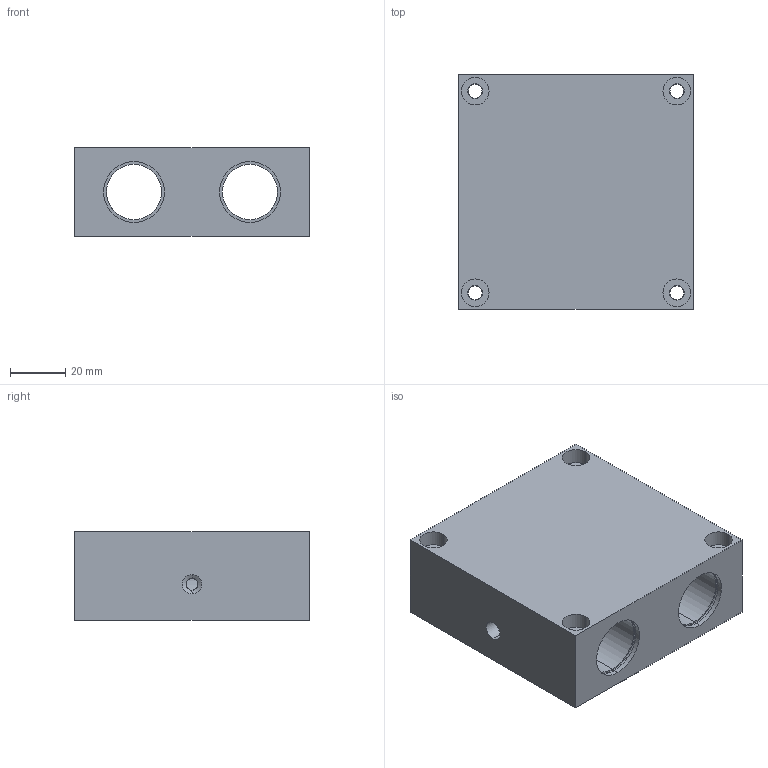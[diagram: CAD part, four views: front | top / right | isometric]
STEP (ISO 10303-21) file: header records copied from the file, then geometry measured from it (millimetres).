
FILE_DESCRIPTION (( 'STEP AP214' ), '1' );
FILE_NAME ('KQSG-12.step', '2020-03-04T13:33:05', ( '' ), ( '' ), 'SwSTEP 2.0', 'SolidWorks 2019', '' );
FILE_SCHEMA (( 'AUTOMOTIVE_DESIGN' ));
Length unit declared in the file: millimetre
Products named in the file (1): KQSG-12
Bounding box: 85 x 85 x 32 mm (x, y, z)
Volume: 163591.8 mm3; surface area: 38629.9 mm2
Topology: 1 solids, 1 shells, 96 faces, 210 edges, 135 vertices
Faces by surface type: cylinder 62, plane 26, cone 8
Entity records: 2968 total; most frequent: CARTESIAN_POINT 552, DIRECTION 520, ORIENTED_EDGE 416, AXIS2_PLACEMENT_3D 219, EDGE_CURVE 208, VERTEX_POINT 135, EDGE_LOOP 133, CIRCLE 122
